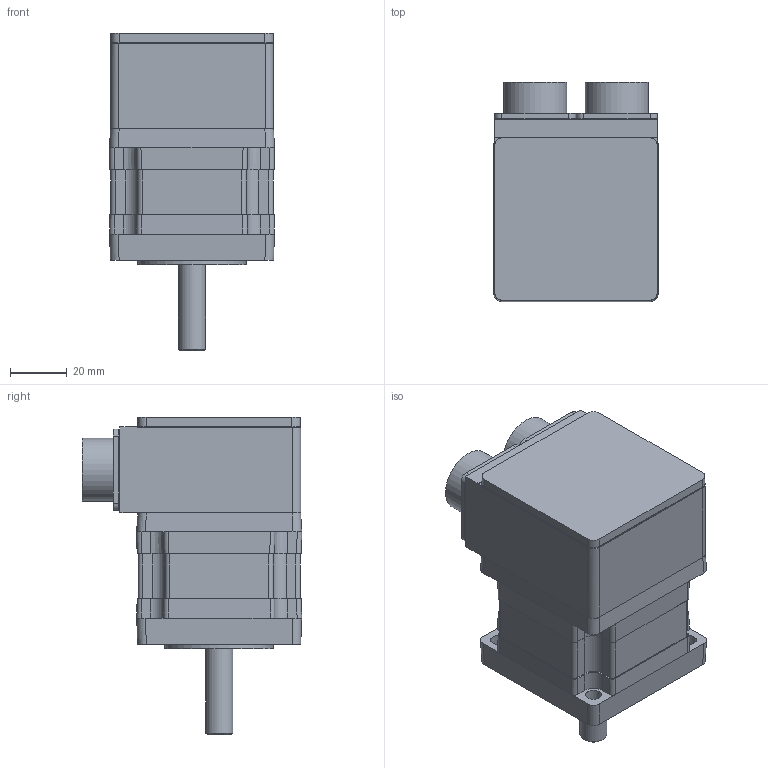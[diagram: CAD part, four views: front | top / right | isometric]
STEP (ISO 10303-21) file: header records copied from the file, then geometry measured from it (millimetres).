
FILE_DESCRIPTION((''),'2;1');
FILE_NAME('C:\CAD_work\Dummy_Modeling_Project_02-12-05\3D MODELS\BE230_MS_TQ.stp','2005-12-20T15:33:30',('jevans'),(''),'Autodesk Inventor 10','Autodesk Inventor 10','');
FILE_SCHEMA(('AUTOMOTIVE_DESIGN { 1 0 10303 214 1 1 1 1 }'));
Length unit declared in the file: inch
Products named in the file (1): BE23_MS_TQ
Bounding box: 57.95 x 77.05 x 111.41 mm (x, y, z)
Volume: 268111.1 mm3; surface area: 37943.7 mm2
Topology: 3 solids, 3 shells, 306 faces, 756 edges, 480 vertices
Faces by surface type: plane 135, cylinder 117, bspline 31, sphere 12, cone 8, torus 3
Full cylindrical faces by diameter (mm): 1.27 x2, 1.905 x26, 2.54 x4, 9.52 x1, 9.525 x1, 19.177 x1, 21.59 x1, 22.225 x1, 24.13 x1, 25.403 x1, 26 x1, 27.076 x1, 31.75 x3, 38.1 x1, 41.732 x1, 47.015 x1
Entity records: 8798 total; most frequent: CARTESIAN_POINT 1823, DIRECTION 1501, ORIENTED_EDGE 1300, EDGE_CURVE 650, AXIS2_PLACEMENT_3D 575, VERTEX_POINT 459, EDGE_LOOP 429, VECTOR 351
